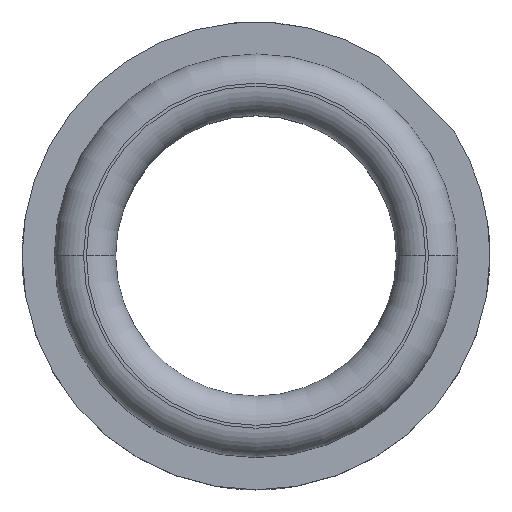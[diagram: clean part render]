
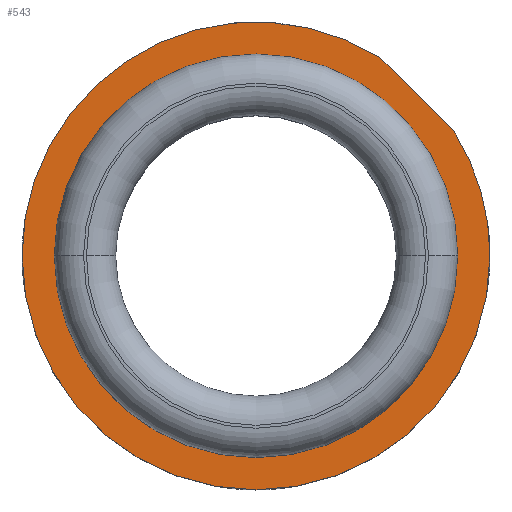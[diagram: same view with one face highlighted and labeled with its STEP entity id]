
A CAD part, top view. The second image highlights one B-rep face of the part: STEP entity #543.
In plain terms, the highlighted planar face has unit normal (0, 0, 1).
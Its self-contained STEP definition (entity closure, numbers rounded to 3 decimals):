
#119 = CARTESIAN_POINT ( 'NONE',  ( 25., 0., 7.5 ) ) ;
#178 = DIRECTION ( 'NONE',  ( 1., 0., 0. ) ) ;
#190 = DIRECTION ( 'NONE',  ( 0., 0., 1. ) ) ;
#197 = CARTESIAN_POINT ( 'NONE',  ( 0., 0., 7.5 ) ) ;
#273 = DIRECTION ( 'NONE',  ( 1., 0., 0. ) ) ;
#278 = DIRECTION ( 'NONE',  ( 0., 0., 1. ) ) ;
#286 = CARTESIAN_POINT ( 'NONE',  ( 0., 0., 7.5 ) ) ;
#362 = LINE ( 'NONE', #3270, #1533 ) ;
#395 = CARTESIAN_POINT ( 'NONE',  ( -25., 0., 7.5 ) ) ;
#543 = ADVANCED_FACE ( 'NONE', ( #1008, #1002 ), #1764, .T. ) ;
#691 = VERTEX_POINT ( 'NONE', #119 ) ;
#842 = AXIS2_PLACEMENT_3D ( 'NONE', #3054, #3064, #1473 ) ;
#935 = ORIENTED_EDGE ( 'NONE', *, *, #1775, .T. ) ;
#1002 = FACE_BOUND ( 'NONE', #1926, .T. ) ;
#1008 = FACE_OUTER_BOUND ( 'NONE', #2468, .T. ) ;
#1070 = VERTEX_POINT ( 'NONE', #395 ) ;
#1235 = ORIENTED_EDGE ( 'NONE', *, *, #1559, .F. ) ;
#1347 = CIRCLE ( 'NONE', #1581, 40. ) ;
#1424 = AXIS2_PLACEMENT_3D ( 'NONE', #286, #278, #273 ) ;
#1439 = AXIS2_PLACEMENT_3D ( 'NONE', #197, #190, #178 ) ;
#1451 = AXIS2_PLACEMENT_3D ( 'NONE', #3361, #3357, #3359 ) ;
#1473 = DIRECTION ( 'NONE',  ( 1., 0., 0. ) ) ;
#1520 = CIRCLE ( 'NONE', #1541, 40. ) ;
#1525 = CARTESIAN_POINT ( 'NONE',  ( 0., 0., 7.5 ) ) ;
#1533 = VECTOR ( 'NONE', #3261, 1000. ) ;
#1535 = DIRECTION ( 'NONE',  ( 1., 0., 0. ) ) ;
#1536 = CIRCLE ( 'NONE', #1451, 25. ) ;
#1539 = DIRECTION ( 'NONE',  ( 0., 0., 1. ) ) ;
#1541 = AXIS2_PLACEMENT_3D ( 'NONE', #2097, #2029, #2098 ) ;
#1559 = EDGE_CURVE ( 'NONE', #1070, #691, #1604, .T. ) ;
#1568 = CIRCLE ( 'NONE', #1439, 40. ) ;
#1581 = AXIS2_PLACEMENT_3D ( 'NONE', #1525, #1539, #1535 ) ;
#1590 = EDGE_CURVE ( 'NONE', #2899, #2234, #1568, .T. ) ;
#1604 = CIRCLE ( 'NONE', #1424, 25. ) ;
#1620 = EDGE_CURVE ( 'NONE', #2971, #2234, #362, .T. ) ;
#1624 = EDGE_CURVE ( 'NONE', #691, #1070, #1536, .T. ) ;
#1718 = EDGE_CURVE ( 'NONE', #3149, #2899, #1520, .T. ) ;
#1764 = PLANE ( 'NONE',  #842 ) ;
#1775 = EDGE_CURVE ( 'NONE', #2971, #3149, #1347, .T. ) ;
#1798 = ORIENTED_EDGE ( 'NONE', *, *, #1718, .T. ) ;
#1926 = EDGE_LOOP ( 'NONE', ( #1235, #3274 ) ) ;
#2029 = DIRECTION ( 'NONE',  ( 0., 0., 1. ) ) ;
#2097 = CARTESIAN_POINT ( 'NONE',  ( 0., 0., 7.5 ) ) ;
#2098 = DIRECTION ( 'NONE',  ( 1., 0., 0. ) ) ;
#2234 = VERTEX_POINT ( 'NONE', #3110 ) ;
#2282 = CARTESIAN_POINT ( 'NONE',  ( -40., 0., 7.5 ) ) ;
#2468 = EDGE_LOOP ( 'NONE', ( #3321, #935, #1798, #3211 ) ) ;
#2548 = CARTESIAN_POINT ( 'NONE',  ( 21.195, 33.923, 7.5 ) ) ;
#2582 = CARTESIAN_POINT ( 'NONE',  ( 40., 0., 7.5 ) ) ;
#2899 = VERTEX_POINT ( 'NONE', #2582 ) ;
#2971 = VERTEX_POINT ( 'NONE', #2548 ) ;
#3054 = CARTESIAN_POINT ( 'NONE',  ( 0., 0., 7.5 ) ) ;
#3064 = DIRECTION ( 'NONE',  ( 0., 0., 1. ) ) ;
#3110 = CARTESIAN_POINT ( 'NONE',  ( 33.923, 21.195, 7.5 ) ) ;
#3149 = VERTEX_POINT ( 'NONE', #2282 ) ;
#3211 = ORIENTED_EDGE ( 'NONE', *, *, #1590, .T. ) ;
#3261 = DIRECTION ( 'NONE',  ( 0.707, -0.707, 0. ) ) ;
#3270 = CARTESIAN_POINT ( 'NONE',  ( 21.195, 33.923, 7.5 ) ) ;
#3274 = ORIENTED_EDGE ( 'NONE', *, *, #1624, .F. ) ;
#3321 = ORIENTED_EDGE ( 'NONE', *, *, #1620, .F. ) ;
#3357 = DIRECTION ( 'NONE',  ( 0., 0., 1. ) ) ;
#3359 = DIRECTION ( 'NONE',  ( 1., 0., 0. ) ) ;
#3361 = CARTESIAN_POINT ( 'NONE',  ( 0., 0., 7.5 ) ) ;
